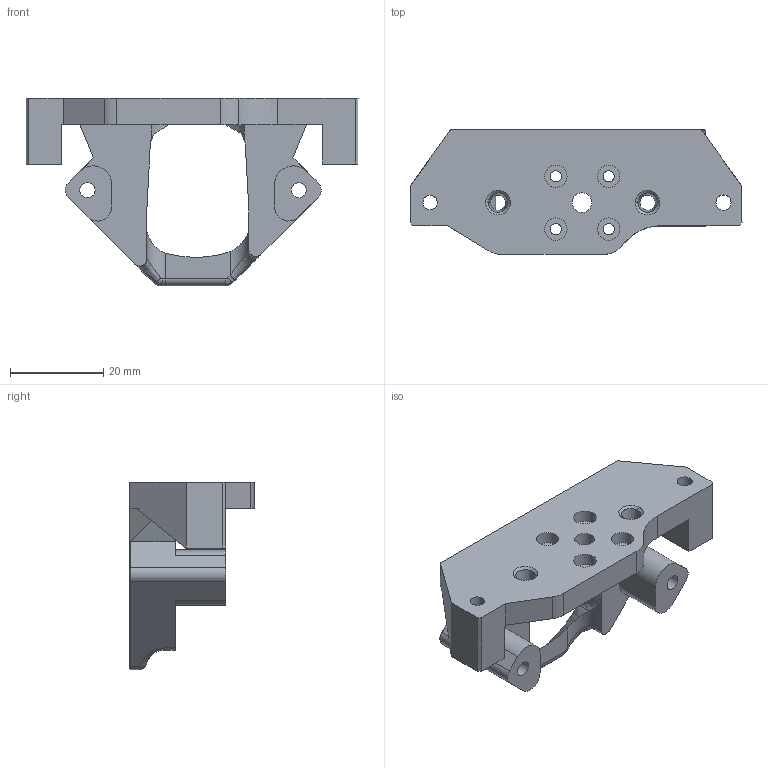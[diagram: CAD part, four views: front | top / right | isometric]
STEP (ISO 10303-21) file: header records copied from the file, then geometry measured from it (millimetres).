
FILE_DESCRIPTION(/* description */ (''),/* implementation_level */ '2;1');
FILE_NAME(/* name */ 'C:/Users/Martin/Documents/icarus-2.1/icarus-2-current-step-files/2-mounts/mount-sherpa-micro-r1-volcano-dragon-2.1.step',/* time_stamp */ '2022-08-22T19:17:14+02:00',/* author */ (''),/* organization */ (''),/* preprocessor_version */ 'ST-DEVELOPER v19',/* originating_system */ 'Autodesk Translation Framework v11.7.0.108',/* authorisation */ '');
FILE_SCHEMA (('AUTOMOTIVE_DESIGN { 1 0 10303 214 3 1 1 }'));
Length unit declared in the file: millimetre
Products named in the file (1): mount-rapido
Bounding box: 71.07 x 26.66 x 40.18 mm (x, y, z)
Volume: 16331.7 mm3; surface area: 9082.6 mm2
Topology: 1 solids, 1 shells, 122 faces, 323 edges, 206 vertices
Faces by surface type: plane 46, bspline 34, cylinder 33, cone 8, torus 1
Full cylindrical faces by diameter (mm): 2.4 x4, 3.1 x1, 3.25 x5, 4.2 x1, 4.8 x4
Entity records: 5453 total; most frequent: CARTESIAN_POINT 2525, ORIENTED_EDGE 646, DIRECTION 508, EDGE_CURVE 323, VERTEX_POINT 206, LINE 174, VECTOR 174, AXIS2_PLACEMENT_3D 167
